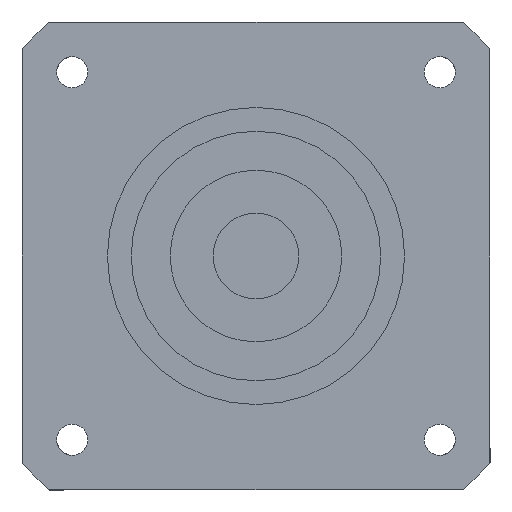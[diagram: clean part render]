
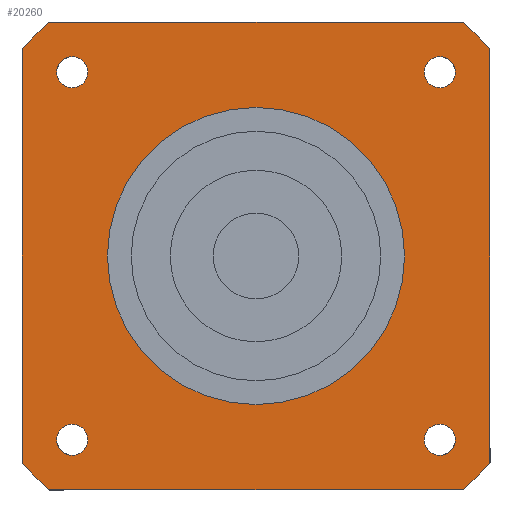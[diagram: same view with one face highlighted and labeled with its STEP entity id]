
A CAD part, left-side view. The second image highlights one B-rep face of the part: STEP entity #20260.
In plain terms, the highlighted planar face has unit normal (-1, 0, 0) as drawn and (0, 0, -1) by its records, which use the part's own axes.
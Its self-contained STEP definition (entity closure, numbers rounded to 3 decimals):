
#11110=CARTESIAN_POINT('',(-30.,26.458,-57.));
#11120=VERTEX_POINT('',#11110);
#11270=CARTESIAN_POINT('',(-30.,-26.458,-57.));
#11280=VERTEX_POINT('',#11270);
#11310=CARTESIAN_POINT('',(-30.,30.,-57.));
#11320=DIRECTION('',(0.,-1.,0.));
#11330=VECTOR('',#11320,1000.);
#11340=LINE('',#11310,#11330);
#11350=EDGE_CURVE('',#11120,#11280,#11340,.T.);
#12930=CARTESIAN_POINT('',(-26.458,-30.,-57.));
#12940=VERTEX_POINT('',#12930);
#12970=CARTESIAN_POINT('',(0.,0.,
-57.));
#12980=DIRECTION('',(0.,0.,1.));
#12990=DIRECTION('',(0.,-1.,0.));
#13000=AXIS2_PLACEMENT_3D('',#12970,#12980,#12990);
#13010=CIRCLE('',#13000,40.);
#13020=EDGE_CURVE('',#11280,#12940,#13010,.T.);
#17850=CARTESIAN_POINT('',(-26.458,30.,-57.));
#17860=VERTEX_POINT('',#17850);
#17910=CARTESIAN_POINT('',(0.,0.,
-57.));
#17920=DIRECTION('',(0.,0.,1.));
#17930=DIRECTION('',(0.,-1.,0.));
#17940=AXIS2_PLACEMENT_3D('',#17910,#17920,#17930);
#17950=CIRCLE('',#17940,40.);
#17960=EDGE_CURVE('',#17860,#11120,#17950,.T.);
#18100=CARTESIAN_POINT('',(26.458,30.,-57.));
#18110=VERTEX_POINT('',#18100);
#18160=CARTESIAN_POINT('',(30.,30.,-57.));
#18170=DIRECTION('',(-1.,0.,0.));
#18180=VECTOR('',#18170,1000.);
#18190=LINE('',#18160,#18180);
#18200=EDGE_CURVE('',#18110,#17860,#18190,.T.);
#18310=CARTESIAN_POINT('',(0.,0.,
-57.));
#18320=DIRECTION('',(0.,0.,1.));
#18330=DIRECTION('',(0.,-1.,0.));
#18340=AXIS2_PLACEMENT_3D('',#18310,#18320,#18330);
#18350=CIRCLE('',#18340,40.);
#18360=CARTESIAN_POINT('',(30.,26.458,-57.));
#18370=VERTEX_POINT('',#18360);
#18380=EDGE_CURVE('',#18370,#18110,#18350,.T.);
#18590=CARTESIAN_POINT('',(30.,-26.458,-57.));
#18600=VERTEX_POINT('',#18590);
#18650=CARTESIAN_POINT('',(30.,-30.,-57.));
#18660=DIRECTION('',(0.,1.,0.));
#18670=VECTOR('',#18660,1000.);
#18680=LINE('',#18650,#18670);
#18690=EDGE_CURVE('',#18600,#18370,#18680,.T.);
#18830=CARTESIAN_POINT('',(26.458,-30.,-57.));
#18840=VERTEX_POINT('',#18830);
#18890=CARTESIAN_POINT('',(0.,0.,
-57.));
#18900=DIRECTION('',(0.,0.,1.));
#18910=DIRECTION('',(0.,-1.,0.));
#18920=AXIS2_PLACEMENT_3D('',#18890,#18900,#18910);
#18930=CIRCLE('',#18920,40.);
#18940=EDGE_CURVE('',#18840,#18600,#18930,.T.);
#19070=CARTESIAN_POINT('',(-30.,-30.,-57.));
#19080=DIRECTION('',(1.,0.,0.));
#19090=VECTOR('',#19080,1000.);
#19100=LINE('',#19070,#19090);
#19110=EDGE_CURVE('',#12940,#18840,#19100,.T.);
#19160=CARTESIAN_POINT('',(-30.,30.,-57.));
#19170=DIRECTION('',(0.,0.,1.));
#19180=DIRECTION('',(-1.,0.,0.));
#19190=AXIS2_PLACEMENT_3D('',#19160,#19170,#19180);
#19200=PLANE('',#19190);
#19210=CARTESIAN_POINT('',(23.571,-23.571,-57.));
#19220=DIRECTION('',(0.,0.,-1.));
#19230=DIRECTION('',(1.,0.,0.));
#19240=AXIS2_PLACEMENT_3D('',#19210,#19220,#19230);
#19250=CIRCLE('',#19240,2.);
#19260=CARTESIAN_POINT('',(25.571,-23.571,-57.));
#19270=VERTEX_POINT('',#19260);
#19280=CARTESIAN_POINT('',(23.571,-25.571,-57.));
#19290=VERTEX_POINT('',#19280);
#19300=EDGE_CURVE('',#19270,#19290,#19250,.T.);
#19310=ORIENTED_EDGE('',*,*,#19300,.F.);
#19320=CARTESIAN_POINT('',(23.571,-21.571,-57.));
#19330=VERTEX_POINT('',#19320);
#19340=EDGE_CURVE('',#19290,#19330,#19250,.T.);
#19350=ORIENTED_EDGE('',*,*,#19340,.F.);
#19360=EDGE_CURVE('',#19330,#19270,#19250,.T.);
#19370=ORIENTED_EDGE('',*,*,#19360,.F.);
#19380=EDGE_LOOP('',(#19370,#19350,#19310));
#19390=FACE_BOUND('',#19380,.T.);
#19400=CARTESIAN_POINT('',(23.571,23.571,-57.));
#19410=DIRECTION('',(0.,0.,-1.));
#19420=DIRECTION('',(0.,1.,0.));
#19430=AXIS2_PLACEMENT_3D('',#19400,#19410,#19420);
#19440=CIRCLE('',#19430,2.);
#19450=CARTESIAN_POINT('',(23.571,25.571,-57.));
#19460=VERTEX_POINT('',#19450);
#19470=CARTESIAN_POINT('',(25.571,23.571,-57.));
#19480=VERTEX_POINT('',#19470);
#19490=EDGE_CURVE('',#19460,#19480,#19440,.T.);
#19500=ORIENTED_EDGE('',*,*,#19490,.F.);
#19510=CARTESIAN_POINT('',(21.571,23.571,-57.));
#19520=VERTEX_POINT('',#19510);
#19530=EDGE_CURVE('',#19480,#19520,#19440,.T.);
#19540=ORIENTED_EDGE('',*,*,#19530,.F.);
#19550=EDGE_CURVE('',#19520,#19460,#19440,.T.);
#19560=ORIENTED_EDGE('',*,*,#19550,.F.);
#19570=EDGE_LOOP('',(#19560,#19540,#19500));
#19580=FACE_BOUND('',#19570,.T.);
#19590=CARTESIAN_POINT('',(-23.571,23.571,-57.));
#19600=DIRECTION('',(0.,0.,-1.));
#19610=DIRECTION('',(-1.,0.,0.));
#19620=AXIS2_PLACEMENT_3D('',#19590,#19600,#19610);
#19630=CIRCLE('',#19620,2.);
#19640=CARTESIAN_POINT('',(-25.571,23.571,-57.));
#19650=VERTEX_POINT('',#19640);
#19660=CARTESIAN_POINT('',(-23.571,25.571,-57.));
#19670=VERTEX_POINT('',#19660);
#19680=EDGE_CURVE('',#19650,#19670,#19630,.T.);
#19690=ORIENTED_EDGE('',*,*,#19680,.F.);
#19700=CARTESIAN_POINT('',(-23.571,21.571,-57.));
#19710=VERTEX_POINT('',#19700);
#19720=EDGE_CURVE('',#19670,#19710,#19630,.T.);
#19730=ORIENTED_EDGE('',*,*,#19720,.F.);
#19740=EDGE_CURVE('',#19710,#19650,#19630,.T.);
#19750=ORIENTED_EDGE('',*,*,#19740,.F.);
#19760=EDGE_LOOP('',(#19750,#19730,#19690));
#19770=FACE_BOUND('',#19760,.T.);
#19780=CARTESIAN_POINT('',(-23.571,-23.571,-57.));
#19790=DIRECTION('',(0.,0.,-1.));
#19800=DIRECTION('',(0.,-1.,0.));
#19810=AXIS2_PLACEMENT_3D('',#19780,#19790,#19800);
#19820=CIRCLE('',#19810,2.);
#19830=CARTESIAN_POINT('',(-23.571,-25.571,-57.));
#19840=VERTEX_POINT('',#19830);
#19850=CARTESIAN_POINT('',(-25.571,-23.571,-57.));
#19860=VERTEX_POINT('',#19850);
#19870=EDGE_CURVE('',#19840,#19860,#19820,.T.);
#19880=ORIENTED_EDGE('',*,*,#19870,.F.);
#19890=CARTESIAN_POINT('',(-21.571,-23.571,-57.));
#19900=VERTEX_POINT('',#19890);
#19910=EDGE_CURVE('',#19860,#19900,#19820,.T.);
#19920=ORIENTED_EDGE('',*,*,#19910,.F.);
#19930=EDGE_CURVE('',#19900,#19840,#19820,.T.);
#19940=ORIENTED_EDGE('',*,*,#19930,.F.);
#19950=EDGE_LOOP('',(#19940,#19920,#19880));
#19960=FACE_BOUND('',#19950,.T.);
#19970=ORIENTED_EDGE('',*,*,#13020,.F.);
#19980=ORIENTED_EDGE('',*,*,#19110,.F.);
#19990=ORIENTED_EDGE('',*,*,#18940,.F.);
#20000=ORIENTED_EDGE('',*,*,#18690,.F.);
#20010=ORIENTED_EDGE('',*,*,#18380,.F.);
#20020=ORIENTED_EDGE('',*,*,#18200,.F.);
#20030=ORIENTED_EDGE('',*,*,#17960,.F.);
#20040=ORIENTED_EDGE('',*,*,#11350,.F.);
#20050=EDGE_LOOP('',(#20040,#20030,#20020,#20010,#20000,#19990,#19980,
#19970));
#20060=FACE_OUTER_BOUND('',#20050,.T.);
#20070=CARTESIAN_POINT('',(0.,0.,
-57.));
#20080=DIRECTION('',(0.,0.,1.));
#20090=DIRECTION('',(0.,-1.,0.));
#20100=AXIS2_PLACEMENT_3D('',#20070,#20080,#20090);
#20110=CIRCLE('',#20100,19.05);
#20120=CARTESIAN_POINT('',(19.05,0.,-57.));
#20130=VERTEX_POINT('',#20120);
#20140=CARTESIAN_POINT('',(-19.05,0.,-57.));
#20150=VERTEX_POINT('',#20140);
#20160=EDGE_CURVE('',#20130,#20150,#20110,.T.);
#20170=ORIENTED_EDGE('',*,*,#20160,.T.);
#20180=CARTESIAN_POINT('',(0.,-19.05,-57.));
#20190=VERTEX_POINT('',#20180);
#20200=EDGE_CURVE('',#20190,#20130,#20110,.T.);
#20210=ORIENTED_EDGE('',*,*,#20200,.T.);
#20220=EDGE_CURVE('',#20150,#20190,#20110,.T.);
#20230=ORIENTED_EDGE('',*,*,#20220,.T.);
#20240=EDGE_LOOP('',(#20230,#20210,#20170));
#20250=FACE_BOUND('',#20240,.T.);
#20260=ADVANCED_FACE('',(#19390,#19580,#19770,#19960,#20060,#20250),
#19200,.F.);
